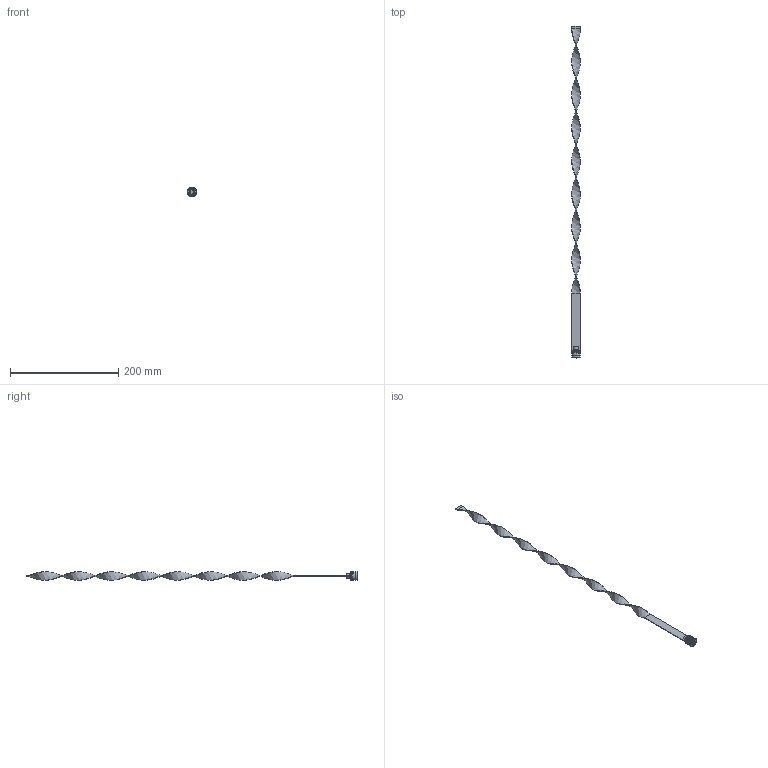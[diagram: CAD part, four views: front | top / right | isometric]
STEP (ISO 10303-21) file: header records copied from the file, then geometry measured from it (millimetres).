
FILE_DESCRIPTION (( 'STEP AP203' ), '1' );
FILE_NAME ('RLS-16Fx600.STEP', '2015-12-09T15:03:33', ( 'Balzi' ), ( '' ), 'SwSTEP 2.0', 'SolidWorks 2015', '' );
FILE_SCHEMA (( 'CONFIG_CONTROL_DESIGN' ));
Length unit declared in the file: millimetre
Products named in the file (1): RLS-16Fx600
Bounding box: 17.5 x 614 x 17.5 mm (x, y, z)
Volume: 12408.6 mm3; surface area: 22353.5 mm2
Topology: 1 solids, 1 shells, 83 faces, 193 edges, 117 vertices
Faces by surface type: plane 35, cone 19, cylinder 17, torus 8, bspline 4
Entity records: 5869 total; most frequent: CARTESIAN_POINT 3904, DIRECTION 406, ORIENTED_EDGE 386, EDGE_CURVE 193, AXIS2_PLACEMENT_3D 151, VERTEX_POINT 117, LINE 104, VECTOR 104
